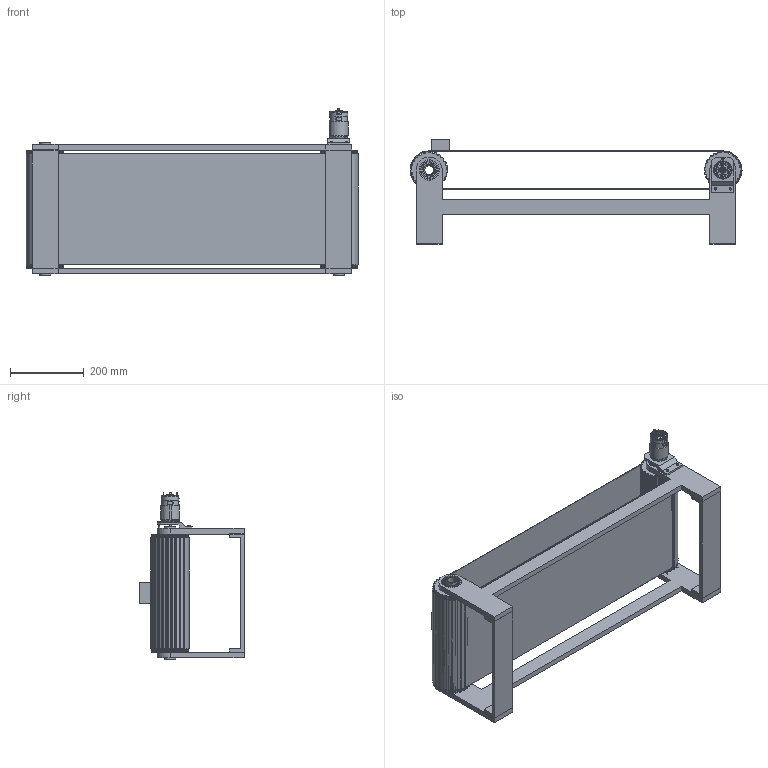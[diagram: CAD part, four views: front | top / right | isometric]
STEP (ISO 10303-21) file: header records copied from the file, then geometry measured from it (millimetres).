
FILE_DESCRIPTION(/* description */ (''),/* implementation_level */ '2;1');
FILE_NAME(/* name */ 'C:\Users\admin\Desktop\inventor\nastro_trasportatore 2\step\nastro_trasportatore.stp',/* time_stamp */ '2021-09-06T14:48:38+02:00',/* author */ ('admin'),/* organization */ (''),/* preprocessor_version */ 'ST-DEVELOPER v18.1',/* originating_system */ 'Autodesk Inventor 2022',/* authorisation */ '');
FILE_SCHEMA (('AUTOMOTIVE_DESIGN { 1 0 10303 214 3 1 1 }'));
Length unit declared in the file: millimetre
Products named in the file (15): nastro; Trasmissione cinghie sincrone; Cinghia sincrona; Puleggia sincrona1; Puleggia sincrona2; albero_1; telaio_nastro; traversi_piano; SKF Z6006-Z; pezzo_nastro; 895DcMotor; attacco_albero_dc_895; piastra_dc_895; Vite a testa cilindrica incassata esalobulare ISO 14580 - M3,5x30-4.8; Vite a testa cilindrica incassata esalobulare ISO 14580 - M3,5x16-4.8
Assembly tree (21 placements, depth 3):
  nastro
    Trasmissione cinghie sincrone
      Cinghia sincrona
      Puleggia sincrona1
      Puleggia sincrona2
    albero_1  x2
    SKF Z6006-Z  x4
    telaio_nastro  x2
    traversi_piano  x2
    pezzo_nastro
    895DcMotor
    attacco_albero_dc_895
    piastra_dc_895
    Vite a testa cilindrica incassata esalobulare ISO 14580 - M3,5x30-4.8
    Vite a testa cilindrica incassata esalobulare ISO 14580 - M3,5x16-4.8  x2
Bounding box: 897.51 x 281.88 x 453 mm (x, y, z)
Volume: 8145622.3 mm3; surface area: 2171057 mm2
Topology: 46 solids, 46 shells, 1138 faces, 3305 edges, 2185 vertices
Faces by surface type: plane 487, cylinder 468, torus 111, sphere 64, cone 8
Full cylindrical faces by diameter (mm): 3.5 x3, 4 x10, 4.5 x8, 5 x4, 8.52 x6, 9.2 x1, 12.34 x1, 12.48 x4, 13.184 x4, 16 x4, 18 x2, 24 x3, 30 x8, 38 x8, 40 x1, 44 x1, 46.7 x1, 47 x8, 48 x1, 55 x8
Entity records: 33148 total; most frequent: CARTESIAN_POINT 6901, DIRECTION 5463, ORIENTED_EDGE 5206, EDGE_CURVE 2603, AXIS2_PLACEMENT_3D 1997, VERTEX_POINT 1745, LINE 1469, VECTOR 1469
